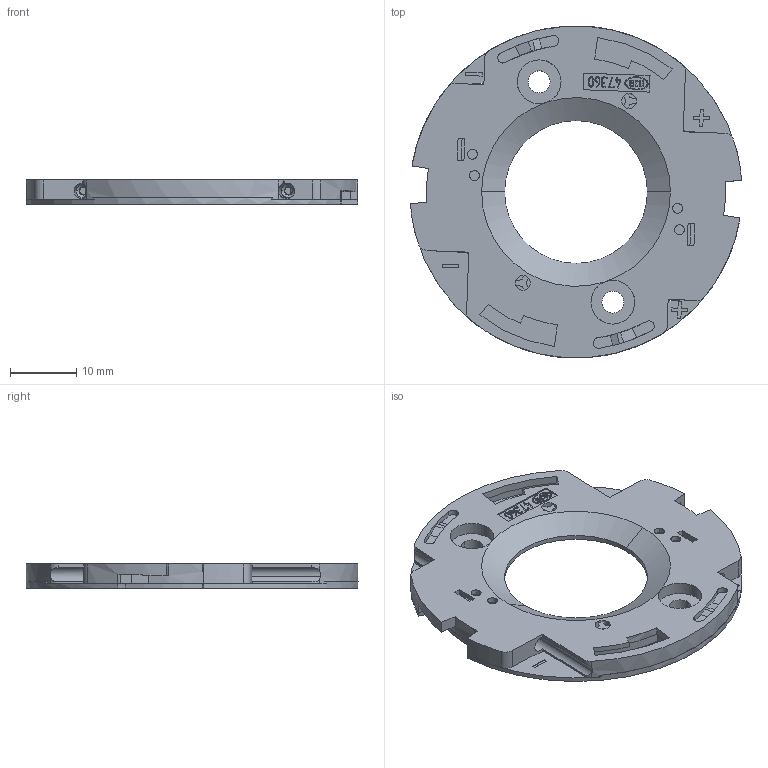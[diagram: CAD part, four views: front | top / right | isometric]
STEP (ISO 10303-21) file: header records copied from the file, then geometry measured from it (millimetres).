
FILE_DESCRIPTION(('CAx-IF Rec.Pracs.---Model Styling and Organization---1.2---2011-12-15','CAx-IF Rec.Pracs.---Geometric and Assembly Validation Properties---4.1---2014-06-16','CAx-IF Rec.Pracs.---PMI Polyline Presentation---2.0---2013-05-24'),'2;1');
FILE_NAME('01ZYR0KY04.stp','2017-11-21T08:19:48+01:00',(''),(''),'STEP Interface 4.1 by CT CoreTechnologie','3D_Evolution4.1 by CT CoreTechnologie','');
FILE_SCHEMA(('AP203_CONFIGURATION_CONTROLLED_3D_DESIGN_OF_MECHANICAL_PARTS_AND_ASSEMBLIES_MIM_LF'));
Length unit declared in the file: millimetre
Products named in the file (3): 01Z-R0K-04; 01Z-R0H-04; 01Z-R0J-04
Assembly tree (2 placements, depth 2):
  01Z-R0K-04
    01Z-R0H-04
    01Z-R0J-04
Bounding box: 49.88 x 50 x 3.65 mm (x, y, z)
Volume: 3414.6 mm3; surface area: 7629.3 mm2
Topology: 4 solids, 4 shells, 771 faces, 2162 edges, 1448 vertices
Faces by surface type: plane 489, cylinder 224, bspline 58
Entity records: 32606 total; most frequent: CARTESIAN_POINT 6066, ORIENTED_EDGE 4324, DIRECTION 4118, EDGE_CURVE 2162, VECTOR 1534, LINE 1534, VERTEX_POINT 1448, AXIS2_PLACEMENT_3D 1292
